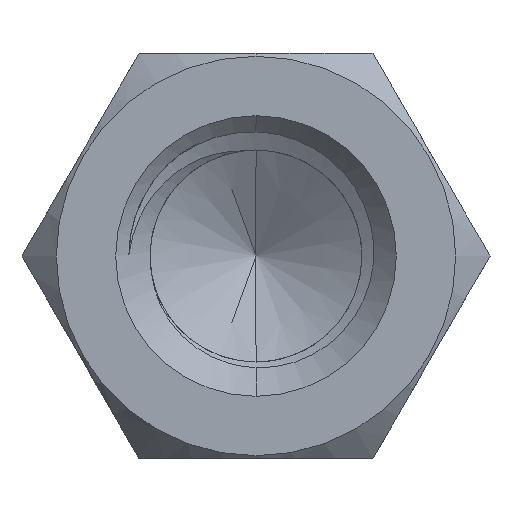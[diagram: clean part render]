
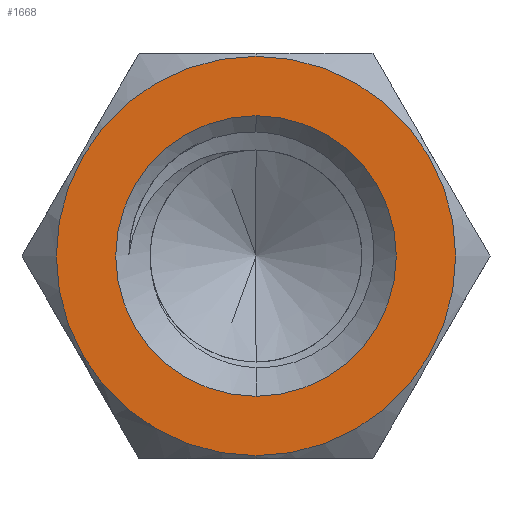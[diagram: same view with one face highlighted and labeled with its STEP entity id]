
A CAD part, front view. The second image highlights one B-rep face of the part: STEP entity #1668.
In plain terms, the highlighted planar face has unit normal (0, -1, 0).
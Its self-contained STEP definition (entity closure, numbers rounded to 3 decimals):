
#150 = FACE_BOUND ( 'NONE', #2179, .T. ) ;
#267 = DIRECTION ( 'NONE',  ( 0., 0., -1. ) ) ;
#374 = PLANE ( 'NONE',  #2381 ) ;
#410 = EDGE_CURVE ( 'NONE', #999, #1050, #861, .T. ) ;
#444 = EDGE_CURVE ( 'NONE', #1050, #999, #1648, .T. ) ;
#539 = EDGE_CURVE ( 'NONE', #589, #2476, #1194, .T. ) ;
#589 = VERTEX_POINT ( 'NONE', #2304 ) ;
#597 = ORIENTED_EDGE ( 'NONE', *, *, #410, .T. ) ;
#661 = CARTESIAN_POINT ( 'NONE',  ( 0., 0., 6.406 ) ) ;
#675 = CARTESIAN_POINT ( 'NONE',  ( 0., 0., 0. ) ) ;
#785 = DIRECTION ( 'NONE',  ( 0., 0., -1. ) ) ;
#859 = CARTESIAN_POINT ( 'NONE',  ( 0., 0., 0. ) ) ;
#861 = CIRCLE ( 'NONE', #2512, 6.406 ) ;
#871 = CARTESIAN_POINT ( 'NONE',  ( 0., 0., 0. ) ) ;
#919 = AXIS2_PLACEMENT_3D ( 'NONE', #2323, #930, #1157 ) ;
#930 = DIRECTION ( 'NONE',  ( 0., 1., 0. ) ) ;
#942 = DIRECTION ( 'NONE',  ( 0., 1., 0. ) ) ;
#999 = VERTEX_POINT ( 'NONE', #2271 ) ;
#1019 = EDGE_LOOP ( 'NONE', ( #2202, #597 ) ) ;
#1050 = VERTEX_POINT ( 'NONE', #661 ) ;
#1157 = DIRECTION ( 'NONE',  ( 0., 0., 1. ) ) ;
#1194 = CIRCLE ( 'NONE', #1517, 4.5 ) ;
#1245 = DIRECTION ( 'NONE',  ( 0., -1., 0. ) ) ;
#1247 = ORIENTED_EDGE ( 'NONE', *, *, #539, .T. ) ;
#1249 = CIRCLE ( 'NONE', #919, 4.5 ) ;
#1266 = CARTESIAN_POINT ( 'NONE',  ( 0., 0., 4.5 ) ) ;
#1322 = ORIENTED_EDGE ( 'NONE', *, *, #1750, .T. ) ;
#1338 = CARTESIAN_POINT ( 'NONE',  ( 0., 0., 0. ) ) ;
#1391 = AXIS2_PLACEMENT_3D ( 'NONE', #871, #1245, #267 ) ;
#1509 = DIRECTION ( 'NONE',  ( 0., 0., 1. ) ) ;
#1517 = AXIS2_PLACEMENT_3D ( 'NONE', #675, #2497, #1696 ) ;
#1648 = CIRCLE ( 'NONE', #1391, 6.406 ) ;
#1668 = ADVANCED_FACE ( 'NONE', ( #150, #2529 ), #374, .F. ) ;
#1696 = DIRECTION ( 'NONE',  ( 0., 0., 1. ) ) ;
#1750 = EDGE_CURVE ( 'NONE', #2476, #589, #1249, .T. ) ;
#1954 = DIRECTION ( 'NONE',  ( 0., -1., 0. ) ) ;
#2179 = EDGE_LOOP ( 'NONE', ( #1247, #1322 ) ) ;
#2202 = ORIENTED_EDGE ( 'NONE', *, *, #444, .T. ) ;
#2271 = CARTESIAN_POINT ( 'NONE',  ( 0., 0., -6.406 ) ) ;
#2304 = CARTESIAN_POINT ( 'NONE',  ( 0., 0., -4.5 ) ) ;
#2323 = CARTESIAN_POINT ( 'NONE',  ( 0., 0., 0. ) ) ;
#2381 = AXIS2_PLACEMENT_3D ( 'NONE', #1338, #942, #1509 ) ;
#2476 = VERTEX_POINT ( 'NONE', #1266 ) ;
#2497 = DIRECTION ( 'NONE',  ( 0., 1., 0. ) ) ;
#2512 = AXIS2_PLACEMENT_3D ( 'NONE', #859, #1954, #785 ) ;
#2529 = FACE_OUTER_BOUND ( 'NONE', #1019, .T. ) ;
